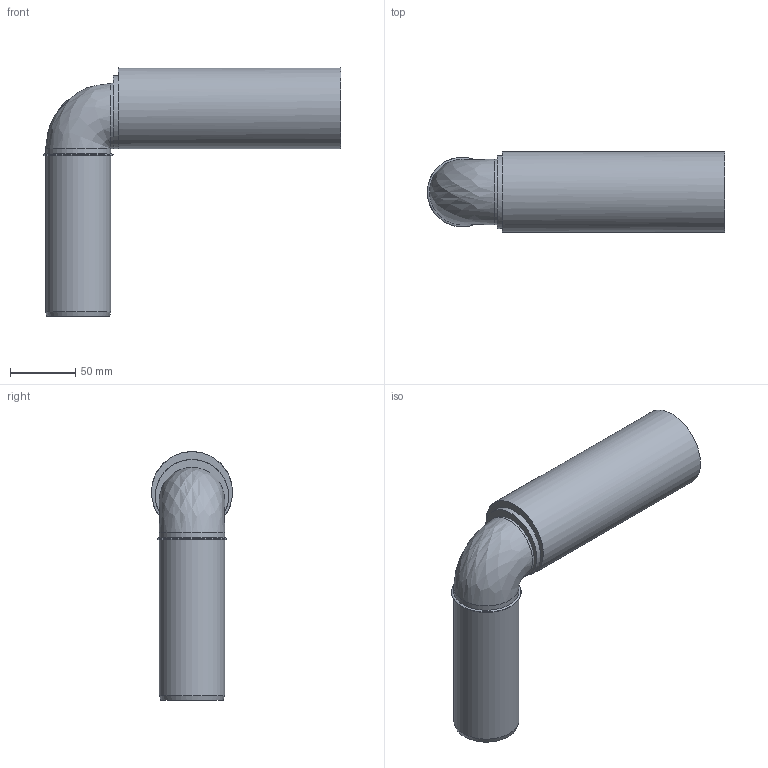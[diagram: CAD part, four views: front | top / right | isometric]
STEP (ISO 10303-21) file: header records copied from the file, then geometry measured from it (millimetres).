
FILE_DESCRIPTION(/* description */ (''),/* implementation_level */ '2;1');
FILE_NAME(/* name */ 'Z:\Geberit\Export\NewStep\390287.stp',/* time_stamp */ '2014-04-02T08:10:55+02:00',/* author */ ('ML'),/* organization */ (''),/* preprocessor_version */ 'ST-DEVELOPER v15.2',/* originating_system */ 'Autodesk Inventor 2014',/* authorisation */ '');
FILE_SCHEMA (('AUTOMOTIVE_DESIGN { 1 0 10303 214 3 1 1 }'));
Length unit declared in the file: millimetre
Products named in the file (3): 861478; Muffe_zu_Anschlussbogen_lang_Einzelteil; 390287
Bounding box: 228.58 x 62.25 x 191.12 mm (x, y, z)
Volume: 121664.7 mm3; surface area: 121062.7 mm2
Topology: 2 solids, 2 shells, 21 faces, 43 edges, 24 vertices
Faces by surface type: cylinder 9, plane 6, torus 4, cone 1, bspline 1
Full cylindrical faces by diameter (mm): 46.15 x3, 50.15 x3, 56.2 x1, 58.25 x1, 62.25 x1
Entity records: 569 total; most frequent: CARTESIAN_POINT 145, DIRECTION 92, AXIS2_PLACEMENT_3D 46, ORIENTED_EDGE 42, EDGE_LOOP 39, FACE_BOUND 21, CIRCLE 21, EDGE_CURVE 21
